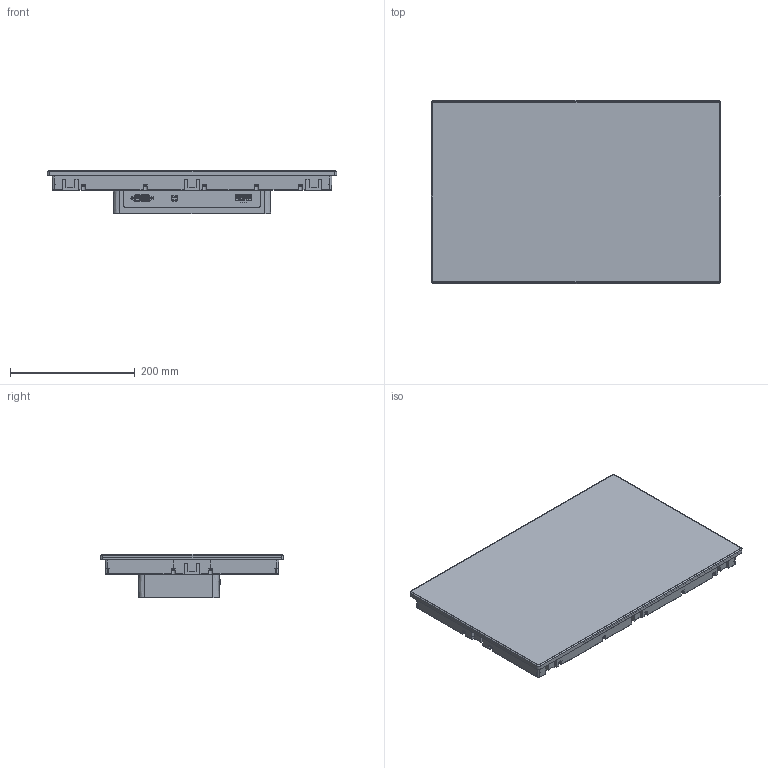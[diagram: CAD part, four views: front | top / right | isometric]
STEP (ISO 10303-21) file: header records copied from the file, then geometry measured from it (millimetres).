
FILE_DESCRIPTION((''),'2;1');
FILE_NAME('SIMPL_ASM_1_ASM','2021-06-02T10:15:16',('danae.lavaud'),(''),'CREO PARAMETRIC BY PTC INC, 2018260','CREO PARAMETRIC BY PTC INC, 2018260','');
FILE_SCHEMA(('CONFIG_CONTROL_DESIGN'));
Length unit declared in the file: inch
Products named in the file (14): HUA1256901_1_1_1_1_1; HUA1145401_1_1_1_1_1; ASM0005_ASM_1_ASM; PRT0001_1; DISPLAY_ADAPTER_20200611_1_2_10; DISPLAY_ADAPTER_20200611_1_2_12; DISPLAY_ADAPTER_20200611_1_2_11_ASM; BROCHE_ASM_1_ASM_1_ASM_1_ASM_1__ASM; PRT0001_1_1_1_1_1_1_7_1_1_1_1; SCREW_MSC_XREC_PAN_M3X36-1167_1; ASM0005_ASM_1_ASM_1_ASM_1_ASM_2_ASM; ASM0005_ASM_1_1_ASM; ASM0005_ASM_ASM; SIMPL_ASM_1_ASM
Assembly tree (42 placements, depth 6):
  SIMPL_ASM_1_ASM
    ASM0005_ASM_1_ASM
      HUA1256901_1_1_1_1_1  x18
      HUA1145401_1_1_1_1_1  x8
    PRT0001_1
    ASM0005_ASM_ASM
      ASM0005_ASM_1_1_ASM
        BROCHE_ASM_1_ASM_1_ASM_1_ASM_1__ASM
          DISPLAY_ADAPTER_20200611_1_2_11_ASM
            DISPLAY_ADAPTER_20200611_1_2_10
            DISPLAY_ADAPTER_20200611_1_2_12
        PRT0001_1_1_1_1_1_1_7_1_1_1_1
        ASM0005_ASM_1_ASM_1_ASM_1_ASM_2_ASM
          SCREW_MSC_XREC_PAN_M3X36-1167_1  x6
Bounding box: 463.6 x 293.6 x 69.5 mm (x, y, z)
Volume: 5199593.8 mm3; surface area: 463750.1 mm2
Topology: 36 solids, 66 shells, 4398 faces, 12536 edges, 8108 vertices
Faces by surface type: plane 2509, cylinder 1373, cone 292, torus 144, sphere 64, bspline 12, extrusion 4
Entity records: 114403 total; most frequent: CARTESIAN_POINT 24597, ORIENTED_EDGE 19416, DIRECTION 17814, EDGE_CURVE 9728, VECTOR 7454, LINE 7450, VERTEX_POINT 6356, AXIS2_PLACEMENT_3D 5180
